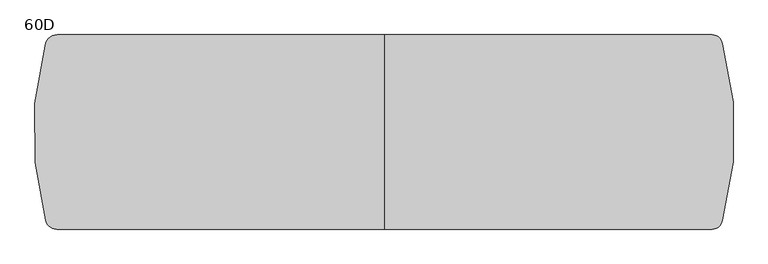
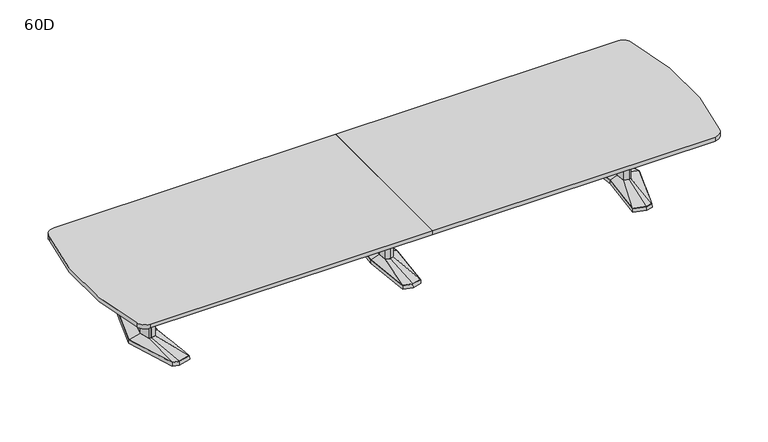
"""IFC4 building model written with IfcOpenShell, lengths in millimetres: furniture geometry, Coalesse_AM_Table_Conference_ETable2_SoftRadiused_18ft_AluminiumBase : 60D."""

from ifc_helpers import new_model, si_unit, point, frame, frame_2d, origin, place, context, project, spatial, polyline, circle_curve, trimmed, segment, composite_curve, outline, extrude, faceted_brep, source, transform, mapped, element, save
from ifc_brep_helpers import plane_surface, spline_surface, advanced_brep


def furniture_60d_67418c7f(model_context):
    return source(origin(), model_context, "Body", "SolidModel", [
        faceted_brep([(-81.2333791, -433.8053819, 38.1), (0.0, -455.556576, 38.1), (81.2333791, -433.8053819, 38.1), (119.0564774, 0.0, 38.1), (81.2333791, 433.8053819, 38.1), (0.0, 455.556576, 38.1), (-81.2333791, 433.8053819, 38.1), (-119.0564774, 0.0, 38.1), (-82.7182795, -435.0512063, 3.175), (-120.65, 0.0, 3.175), (-82.7182795, 435.0512063, 3.175), (0.0, 457.2, 3.175), (82.7182795, 435.0512063, 3.175), (120.65, 0.0, 3.175), (82.7182795, -435.0512063, 3.175), (0.0, -457.2, 3.175), (0.0, 429.2617927, 3.175), (-77.9676806, 408.3850278, 3.175), (-74.7019821, 382.9646737, 3.175), (0.0, 402.9670094, 3.175), (74.7019821, 382.9646737, 3.175), (77.9676806, 408.3850278, 3.175), (0.0, -429.2617927, 3.175), (77.9676806, -408.3850278, 3.175), (74.7019821, -382.9646737, 3.175), (0.0, -402.9670094, 3.175), (-74.7019821, -382.9646737, 3.175), (-77.9676806, -408.3850278, 3.175), (-71.8574262, 114.6326257, 3.175), (-82.5426076, 0.0, 3.175), (-71.8574262, -114.6326257, 3.175), (0.0, -133.8761372, 3.175), (71.8574262, -114.6326257, 3.175), (82.5426076, 0.0, 3.175), (71.8574262, 114.6326257, 3.175), (0.0, 133.8761372, 3.175), (0.0, 429.2617927, 0.0), (77.9676806, 408.3850278, 0.0), (74.7019821, 382.9646737, 0.0), (0.0, 402.9670094, 0.0), (-74.7019821, 382.9646737, 0.0), (-77.9676806, 408.3850278, 0.0), (0.0, -429.2617927, 0.0), (-77.9676806, -408.3850278, 0.0), (-74.7019821, -382.9646737, 0.0), (0.0, -402.9670094, 0.0), (74.7019821, -382.9646737, 0.0), (77.9676806, -408.3850278, 0.0), (-71.8574262, 114.6326257, 0.0), (0.0, 133.8761372, 0.0), (71.8574262, 114.6326257, 0.0), (82.5426076, 0.0, 0.0), (71.8574262, -114.6326257, 0.0), (0.0, -133.8761372, 0.0), (-71.8574262, -114.6326257, 0.0), (-82.5426076, 0.0, 0.0)], [[[0, 1, 2, 3, 4, 5, 6, 7]], [[8, 9, 10, 11, 12, 13, 14, 15], [16, 17, 18, 19, 20, 21], [22, 23, 24, 25, 26, 27], [28, 29, 30, 31, 32, 33, 34, 35]], [[1, 0, 8, 15]], [[2, 1, 15, 14]], [[3, 2, 14, 13]], [[4, 3, 13, 12]], [[5, 4, 12, 11]], [[6, 5, 11, 10]], [[7, 6, 10, 9]], [[0, 7, 9, 8]], [[36, 37, 38, 39, 40, 41]], [[42, 43, 44, 45, 46, 47]], [[48, 49, 50, 51, 52, 53, 54, 55]], [[36, 41, 17, 16]], [[41, 40, 18, 17]], [[40, 39, 19, 18]], [[39, 38, 20, 19]], [[38, 37, 21, 20]], [[37, 36, 16, 21]], [[42, 47, 23, 22]], [[47, 46, 24, 23]], [[46, 45, 25, 24]], [[45, 44, 26, 25]], [[44, 43, 27, 26]], [[43, 42, 22, 27]], [[48, 55, 29, 28]], [[55, 54, 30, 29]], [[54, 53, 31, 30]], [[53, 52, 32, 31]], [[52, 51, 33, 32]], [[51, 50, 34, 33]], [[50, 49, 35, 34]], [[49, 48, 28, 35]]]),
        faceted_brep([(-36.3832834, 84.6900825, 698.5), (-44.2774487, 0.0, 698.5), (-36.3832834, -84.6900825, 698.5), (0.0, -94.4335728, 698.5), (36.3832834, -84.6900825, 698.5), (44.2774487, 0.0, 698.5), (36.3832834, 84.6900825, 698.5), (0.0, 94.4335728, 698.5), (-36.3832834, 84.6900825, 63.5), (0.0, 94.4335728, 63.5), (36.3832834, 84.6900825, 63.5), (44.2774487, 0.0, 63.5), (36.3832834, -84.6900825, 63.5), (0.0, -94.4335728, 63.5), (-36.3832834, -84.6900825, 63.5), (-44.2774487, 0.0, 63.5)], [[[0, 1, 2, 3, 4, 5, 6, 7]], [[8, 9, 10, 11, 12, 13, 14, 15]], [[1, 0, 8, 15]], [[2, 1, 15, 14]], [[3, 2, 14, 13]], [[4, 3, 13, 12]], [[5, 4, 12, 11]], [[6, 5, 11, 10]], [[7, 6, 10, 9]], [[0, 7, 9, 8]]]),
        advanced_brep(
        [(-36.3832834, 84.6900825, 63.5), (-44.2774487, 0.0, 63.5), (-36.3832834, -84.6900825, 63.5), (0.0, -94.4335728, 63.5), (36.3832834, -84.6900825, 63.5), (44.2774487, 0.0, 63.5), (36.3832834, 84.6900825, 63.5), (0.0, 94.4335728, 63.5), (-81.2333791, 433.8053819, 38.1), (0.0, 455.556576, 38.1), (81.2333791, 433.8053819, 38.1), (119.0564774, 0.0, 38.1), (81.2333791, -433.8053819, 38.1), (0.0, -455.556576, 38.1), (-81.2333791, -433.8053819, 38.1), (-119.0564774, 0.0, 38.1)],
        [
            (0, 1),
            (1, 2),
            (2, 3),
            (3, 4),
            (4, 5),
            (5, 6),
            (6, 7),
            (7, 0),
            (8, 9),
            (9, 10),
            (10, 11),
            (11, 12),
            (12, 13),
            (13, 14),
            (14, 15),
            (15, 8),
            (15, 1),
            (0, 8),
            (14, 2),
            (13, 3),
            (12, 4),
            (11, 5),
            (10, 6),
            (9, 7),
        ],
        [
            plane_surface(frame((0.0, 0.0, 63.5), z_axis=(0.0, 0.0, 1.0000000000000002), x_axis=(-0.9659615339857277, -0.25868574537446, 0.0))),
            plane_surface(frame((0.0, 0.0, 38.1), z_axis=(0.0, 0.0, -1.0000000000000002), x_axis=(-0.9659615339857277, -0.25868574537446, 0.0))),
            spline_surface(1, 1, [[(-81.2333791, 433.8053819, 38.1), (-36.3832834, 84.6900825, 63.5)], [(-119.0564774, 0.0, 38.1), (-44.2774487, 0.0, 63.5)]], [2, 2], [2, 2], [0.0, 1.0], [0.0, 1.0]),
            spline_surface(1, 1, [[(-119.0564774, 0.0, 38.1), (-44.2774487, 0.0, 63.5)], [(-81.2333791, -433.8053819, 38.1), (-36.3832834, -84.6900825, 63.5)]], [2, 2], [2, 2], [0.0, 1.0], [0.0, 1.0]),
            spline_surface(1, 1, [[(-81.2333791, -433.8053819, 38.1), (-36.3832834, -84.6900825, 63.5)], [(0.0, -455.556576, 38.1), (0.0, -94.4335728, 63.5)]], [2, 2], [2, 2], [0.0, 1.0], [0.0, 1.0]),
            spline_surface(1, 1, [[(0.0, -455.556576, 38.1), (0.0, -94.4335728, 63.5)], [(81.2333791, -433.8053819, 38.1), (36.3832834, -84.6900825, 63.5)]], [2, 2], [2, 2], [0.0, 1.0], [0.0, 1.0]),
            spline_surface(1, 1, [[(81.2333791, -433.8053819, 38.1), (36.3832834, -84.6900825, 63.5)], [(119.0564774, 0.0, 38.1), (44.2774487, 0.0, 63.5)]], [2, 2], [2, 2], [0.0, 1.0], [0.0, 1.0]),
            spline_surface(1, 1, [[(119.0564774, 0.0, 38.1), (44.2774487, 0.0, 63.5)], [(81.2333791, 433.8053819, 38.1), (36.3832834, 84.6900825, 63.5)]], [2, 2], [2, 2], [0.0, 1.0], [0.0, 1.0]),
            spline_surface(1, 1, [[(81.2333791, 433.8053819, 38.1), (36.3832834, 84.6900825, 63.5)], [(0.0, 455.556576, 38.1), (0.0, 94.4335728, 63.5)]], [2, 2], [2, 2], [0.0, 1.0], [0.0, 1.0]),
            spline_surface(1, 1, [[(0.0, 455.556576, 38.1), (0.0, 94.4335728, 63.5)], [(-81.2333791, 433.8053819, 38.1), (-36.3832834, 84.6900825, 63.5)]], [2, 2], [2, 2], [0.0, 1.0], [0.0, 1.0]),
        ],
        [
            (0, [[1, 2, 3, 4, 5, 6, 7, 8]]),
            (1, [[9, 10, 11, 12, 13, 14, 15, 16]]),
            (2, [[-16, 17, -1, 18]]),
            (3, [[-15, 19, -2, -17]]),
            (4, [[-14, 20, -3, -19]]),
            (5, [[-13, 21, -4, -20]]),
            (6, [[-12, 22, -5, -21]]),
            (7, [[-11, 23, -6, -22]]),
            (8, [[-10, 24, -7, -23]]),
            (9, [[-9, -18, -8, -24]]),
        ],
    ),
        faceted_brep([(2125.0306835, 455.5848221, 38.1), (2015.4531277, 426.2263816, 38.1), (2056.6163717, 0.0, 38.1), (2015.4531277, -426.2263816, 38.1), (2125.0306835, -455.5848221, 38.1), (2181.1570396, -440.5478297, 38.1), (2318.4684269, 0.0, 38.1), (2181.1570396, 440.5478297, 38.1), (2125.0306754, 457.2283104, 3.175), (2182.4124472, 441.8549756, 3.175), (2320.13125, 0.0, 3.175), (2182.4124472, -441.8549756, 3.175), (2125.0306754, -457.2283104, 3.175), (2013.74375, -427.4118891, 3.175), (2055.0214856, 0.0, 3.175), (2013.74375, 427.4118891, 3.175), (2128.620115, 428.3273875, 3.175), (2023.5718228, 402.1057253, 3.175), (2031.690518, 377.985069, 3.175), (2132.2095466, 401.0699529, 3.175), (2182.7691725, 387.524361, 3.175), (2181.9631061, 414.0360954, 3.175), (2128.620115, -428.3273875, 3.175), (2181.9631061, -414.0360954, 3.175), (2182.7691725, -387.524361, 3.175), (2132.2095466, -401.0699529, 3.175), (2031.690518, -377.985069, 3.175), (2023.5718228, -402.1057253, 3.175), (2255.2153621, 0.0, 3.175), (2222.9459611, 120.4193755, 3.175), (2174.2987222, 133.471665, 3.175), (2094.4180526, 119.4176561, 3.175), (2083.2868466, 0.0, 3.175), (2094.4180526, -119.4176561, 3.175), (2174.2987222, -133.471665, 3.175), (2222.9459611, -120.4193755, 3.175), (2128.620115, 428.3273875, 0.0), (2181.9631061, 414.0360954, 0.0), (2182.7691725, 387.524361, 0.0), (2132.2095466, 401.0699529, 0.0), (2031.690518, 377.985069, 0.0), (2023.5718228, 402.1057253, 0.0), (2128.620115, -428.3273875, 0.0), (2023.5718228, -402.1057253, 0.0), (2031.690518, -377.985069, 0.0), (2132.2095466, -401.0699529, 0.0), (2182.7691725, -387.524361, 0.0), (2181.9631061, -414.0360954, 0.0), (2255.2153621, 0.0, 0.0), (2222.9459611, -120.4193755, 0.0), (2174.2987222, -133.471665, 0.0), (2094.4180526, -119.4176561, 0.0), (2083.2868466, 0.0, 0.0), (2094.4180526, 119.4176561, 0.0), (2174.2987222, 133.471665, 0.0), (2222.9459611, 120.4193755, 0.0)], [[[0, 1, 2, 3, 4, 5, 6, 7]], [[8, 9, 10, 11, 12, 13, 14, 15], [16, 17, 18, 19, 20, 21], [22, 23, 24, 25, 26, 27], [28, 29, 30, 31, 32, 33, 34, 35]], [[7, 9, 8, 0]], [[6, 10, 9, 7]], [[5, 11, 10, 6]], [[4, 12, 11, 5]], [[3, 13, 12, 4]], [[2, 14, 13, 3]], [[1, 15, 14, 2]], [[0, 8, 15, 1]], [[36, 37, 38, 39, 40, 41]], [[42, 43, 44, 45, 46, 47]], [[48, 49, 50, 51, 52, 53, 54, 55]], [[36, 16, 21, 37]], [[37, 21, 20, 38]], [[38, 20, 19, 39]], [[39, 19, 18, 40]], [[40, 18, 17, 41]], [[41, 17, 16, 36]], [[42, 22, 27, 43]], [[43, 27, 26, 44]], [[44, 26, 25, 45]], [[45, 25, 24, 46]], [[46, 24, 23, 47]], [[47, 23, 22, 42]], [[48, 28, 35, 49]], [[49, 35, 34, 50]], [[50, 34, 33, 51]], [[51, 33, 32, 52]], [[52, 32, 31, 53]], [[53, 31, 30, 54]], [[54, 30, 29, 55]], [[55, 29, 28, 48]]]),
        faceted_brep([(2215.7710836, 0.0, 698.5), (2191.8358546, 89.3188359, 698.5), (2174.9824984, 93.8406728, 698.5), (2172.5826511, 94.4845635, 698.5), (2129.655146, 86.9320037, 698.5), (2121.5520056, 0.0, 698.5), (2129.655146, -86.9320037, 698.5), (2172.5826511, -94.4845635, 698.5), (2174.9824984, -93.8406728, 698.5), (2191.8358546, -89.3188359, 698.5), (2215.7710836, 0.0, 63.5), (2191.8358546, -89.3188359, 63.5), (2174.9824984, -93.8406728, 63.5), (2172.5826511, -94.4845635, 63.5), (2129.655146, -86.9320037, 63.5), (2121.5520056, 0.0, 63.5), (2129.655146, 86.9320037, 63.5), (2172.5826511, 94.4845635, 63.5), (2174.9824984, 93.8406728, 63.5), (2191.8358546, 89.3188359, 63.5)], [[[0, 1, 2, 3, 4, 5, 6, 7, 8, 9]], [[10, 11, 12, 13, 14, 15, 16, 17, 18, 19]], [[9, 11, 10, 0]], [[8, 12, 11, 9]], [[7, 13, 12, 8]], [[6, 14, 13, 7]], [[5, 15, 14, 6]], [[4, 16, 15, 5]], [[3, 17, 16, 4]], [[2, 18, 17, 3]], [[1, 19, 18, 2]], [[0, 10, 19, 1]]]),
        advanced_brep(
        [(2172.5826511, 94.4845635, 63.5), (2129.655146, 86.9320037, 63.5), (2121.5520056, 0.0, 63.5), (2129.655146, -86.9320037, 63.5), (2172.5826511, -94.4845635, 63.5), (2191.8358546, -89.3188359, 63.5), (2215.7710836, 0.0, 63.5), (2191.8358546, 89.3188359, 63.5), (2125.0306835, 455.5848221, 38.1), (2181.1570396, 440.5478297, 38.1), (2318.4684269, 0.0, 38.1), (2181.1570396, -440.5478297, 38.1), (2125.0306835, -455.5848221, 38.1), (2015.4531277, -426.2263816, 38.1), (2056.6163717, 0.0, 38.1), (2015.4531277, 426.2263816, 38.1)],
        [
            (0, 1),
            (1, 2),
            (2, 3),
            (3, 4),
            (4, 5),
            (5, 6),
            (6, 7),
            (7, 0),
            (8, 9),
            (9, 10),
            (10, 11),
            (11, 12),
            (12, 13),
            (13, 14),
            (14, 15),
            (15, 8),
            (8, 0),
            (7, 9),
            (6, 10),
            (5, 11),
            (4, 12),
            (3, 13),
            (2, 14),
            (1, 15),
        ],
        [
            plane_surface(frame((2165.6837991, 0.0, 63.5), z_axis=(0.0, 0.0, 1.0), x_axis=(-0.25884244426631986, -0.9659195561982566, 0.0))),
            plane_surface(frame((2127.2958125, 0.0, 38.1), z_axis=(0.0, 0.0, -1.0), x_axis=(-0.25884244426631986, -0.9659195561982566, 0.0))),
            spline_surface(1, 1, [[(2125.0306835, 455.5848221, 38.1), (2181.1570396, 440.5478297, 38.1)], [(2172.5826511, 94.4845635, 63.5), (2191.8358546, 89.3188359, 63.5)]], [2, 2], [2, 2], [0.0, 1.0], [0.0, 1.0]),
            spline_surface(1, 1, [[(2181.1570396, 440.5478297, 38.1), (2318.4684269, 0.0, 38.1)], [(2191.8358546, 89.3188359, 63.5), (2215.7710836, 0.0, 63.5)]], [2, 2], [2, 2], [0.0, 1.0], [0.0, 1.0]),
            spline_surface(1, 1, [[(2318.4684269, 0.0, 38.1), (2181.1570396, -440.5478297, 38.1)], [(2215.7710836, 0.0, 63.5), (2191.8358546, -89.3188359, 63.5)]], [2, 2], [2, 2], [0.0, 1.0], [0.0, 1.0]),
            spline_surface(1, 1, [[(2181.1570396, -440.5478297, 38.1), (2125.0306835, -455.5848221, 38.1)], [(2191.8358546, -89.3188359, 63.5), (2172.5826511, -94.4845635, 63.5)]], [2, 2], [2, 2], [0.0, 1.0], [0.0, 1.0]),
            spline_surface(1, 1, [[(2125.0306835, -455.5848221, 38.1), (2015.4531277, -426.2263816, 38.1)], [(2172.5826511, -94.4845635, 63.5), (2129.655146, -86.9320037, 63.5)]], [2, 2], [2, 2], [0.0, 1.0], [0.0, 1.0]),
            spline_surface(1, 1, [[(2015.4531277, -426.2263816, 38.1), (2056.6163717, 0.0, 38.1)], [(2129.655146, -86.9320037, 63.5), (2121.5520056, 0.0, 63.5)]], [2, 2], [2, 2], [0.0, 1.0], [0.0, 1.0]),
            spline_surface(1, 1, [[(2056.6163717, 0.0, 38.1), (2015.4531277, 426.2263816, 38.1)], [(2121.5520056, 0.0, 63.5), (2129.655146, 86.9320037, 63.5)]], [2, 2], [2, 2], [0.0, 1.0], [0.0, 1.0]),
            spline_surface(1, 1, [[(2015.4531277, 426.2263816, 38.1), (2125.0306835, 455.5848221, 38.1)], [(2129.655146, 86.9320037, 63.5), (2172.5826511, 94.4845635, 63.5)]], [2, 2], [2, 2], [0.0, 1.0], [0.0, 1.0]),
        ],
        [
            (0, [[1, 2, 3, 4, 5, 6, 7, 8]]),
            (1, [[9, 10, 11, 12, 13, 14, 15, 16]]),
            (2, [[17, -8, 18, -9]]),
            (3, [[-18, -7, 19, -10]]),
            (4, [[-19, -6, 20, -11]]),
            (5, [[-20, -5, 21, -12]]),
            (6, [[-21, -4, 22, -13]]),
            (7, [[-22, -3, 23, -14]]),
            (8, [[-23, -2, 24, -15]]),
            (9, [[-24, -1, -17, -16]]),
        ],
    ),
        faceted_brep([(-2125.0306835, 455.5848221, 38.1), (-2181.1570396, 440.5478297, 38.1), (-2318.4684269, 0.0, 38.1), (-2181.1570396, -440.5478297, 38.1), (-2125.0306835, -455.5848221, 38.1), (-2015.4531277, -426.2263816, 38.1), (-2056.6163717, 0.0, 38.1), (-2015.4531277, 426.2263816, 38.1), (-2125.0306754, 457.2283104, 3.175), (-2013.74375, 427.4118891, 3.175), (-2055.0214856, 0.0, 3.175), (-2013.74375, -427.4118891, 3.175), (-2125.0306754, -457.2283104, 3.175), (-2182.4124472, -441.8549756, 3.175), (-2320.13125, 0.0, 3.175), (-2182.4124472, 441.8549756, 3.175), (-2128.620115, 428.3273875, 3.175), (-2181.9631061, 414.0360954, 3.175), (-2182.7691725, 387.524361, 3.175), (-2132.2095466, 401.0699529, 3.175), (-2031.690518, 377.985069, 3.175), (-2023.5718228, 402.1057253, 3.175), (-2128.620115, -428.3273875, 3.175), (-2023.5718228, -402.1057253, 3.175), (-2031.690518, -377.985069, 3.175), (-2132.2095466, -401.0699529, 3.175), (-2182.7691725, -387.524361, 3.175), (-2181.9631061, -414.0360954, 3.175), (-2255.2153621, 0.0, 3.175), (-2222.9459611, -120.4193755, 3.175), (-2174.2987222, -133.471665, 3.175), (-2094.4180526, -119.4176561, 3.175), (-2083.2868466, 0.0, 3.175), (-2094.4180526, 119.4176561, 3.175), (-2174.2987222, 133.471665, 3.175), (-2222.9459611, 120.4193755, 3.175), (-2128.620115, 428.3273875, 0.0), (-2023.5718228, 402.1057253, 0.0), (-2031.690518, 377.985069, 0.0), (-2132.2095466, 401.0699529, 0.0), (-2182.7691725, 387.524361, 0.0), (-2181.9631061, 414.0360954, 0.0), (-2128.620115, -428.3273875, 0.0), (-2181.9631061, -414.0360954, 0.0), (-2182.7691725, -387.524361, 0.0), (-2132.2095466, -401.0699529, 0.0), (-2031.690518, -377.985069, 0.0), (-2023.5718228, -402.1057253, 0.0), (-2255.2153621, 0.0, 0.0), (-2222.9459611, 120.4193755, 0.0), (-2174.2987222, 133.471665, 0.0), (-2094.4180526, 119.4176561, 0.0), (-2083.2868466, 0.0, 0.0), (-2094.4180526, -119.4176561, 0.0), (-2174.2987222, -133.471665, 0.0), (-2222.9459611, -120.4193755, 0.0)], [[[0, 1, 2, 3, 4, 5, 6, 7]], [[8, 9, 10, 11, 12, 13, 14, 15], [16, 17, 18, 19, 20, 21], [22, 23, 24, 25, 26, 27], [28, 29, 30, 31, 32, 33, 34, 35]], [[1, 0, 8, 15]], [[2, 1, 15, 14]], [[3, 2, 14, 13]], [[4, 3, 13, 12]], [[5, 4, 12, 11]], [[6, 5, 11, 10]], [[7, 6, 10, 9]], [[0, 7, 9, 8]], [[36, 37, 38, 39, 40, 41]], [[42, 43, 44, 45, 46, 47]], [[48, 49, 50, 51, 52, 53, 54, 55]], [[36, 41, 17, 16]], [[41, 40, 18, 17]], [[40, 39, 19, 18]], [[39, 38, 20, 19]], [[38, 37, 21, 20]], [[37, 36, 16, 21]], [[42, 47, 23, 22]], [[47, 46, 24, 23]], [[46, 45, 25, 24]], [[45, 44, 26, 25]], [[44, 43, 27, 26]], [[43, 42, 22, 27]], [[48, 55, 29, 28]], [[55, 54, 30, 29]], [[54, 53, 31, 30]], [[53, 52, 32, 31]], [[52, 51, 33, 32]], [[51, 50, 34, 33]], [[50, 49, 35, 34]], [[49, 48, 28, 35]]]),
        faceted_brep([(-2215.7710836, 0.0, 698.5), (-2191.8358546, -89.3188359, 698.5), (-2174.9824984, -93.8406728, 698.5), (-2172.5826511, -94.4845635, 698.5), (-2129.655146, -86.9320037, 698.5), (-2121.5520056, 0.0, 698.5), (-2129.655146, 86.9320037, 698.5), (-2172.5826511, 94.4845635, 698.5), (-2174.9824984, 93.8406728, 698.5), (-2191.8358546, 89.3188359, 698.5), (-2215.7710836, 0.0, 63.5), (-2191.8358546, 89.3188359, 63.5), (-2174.9824984, 93.8406728, 63.5), (-2172.5826511, 94.4845635, 63.5), (-2129.655146, 86.9320037, 63.5), (-2121.5520056, 0.0, 63.5), (-2129.655146, -86.9320037, 63.5), (-2172.5826511, -94.4845635, 63.5), (-2174.9824984, -93.8406728, 63.5), (-2191.8358546, -89.3188359, 63.5)], [[[0, 1, 2, 3, 4, 5, 6, 7, 8, 9]], [[10, 11, 12, 13, 14, 15, 16, 17, 18, 19]], [[1, 0, 10, 19]], [[2, 1, 19, 18]], [[3, 2, 18, 17]], [[4, 3, 17, 16]], [[5, 4, 16, 15]], [[6, 5, 15, 14]], [[7, 6, 14, 13]], [[8, 7, 13, 12]], [[9, 8, 12, 11]], [[0, 9, 11, 10]]]),
        advanced_brep(
        [(-2172.5826511, 94.4845635, 63.5), (-2191.8358546, 89.3188359, 63.5), (-2215.7710836, 0.0, 63.5), (-2191.8358546, -89.3188359, 63.5), (-2172.5826511, -94.4845635, 63.5), (-2129.655146, -86.9320037, 63.5), (-2121.5520056, 0.0, 63.5), (-2129.655146, 86.9320037, 63.5), (-2125.0306835, 455.5848221, 38.1), (-2015.4531277, 426.2263816, 38.1), (-2056.6163717, 0.0, 38.1), (-2015.4531277, -426.2263816, 38.1), (-2125.0306835, -455.5848221, 38.1), (-2181.1570396, -440.5478297, 38.1), (-2318.4684269, 0.0, 38.1), (-2181.1570396, 440.5478297, 38.1)],
        [
            (0, 1),
            (1, 2),
            (2, 3),
            (3, 4),
            (4, 5),
            (5, 6),
            (6, 7),
            (7, 0),
            (8, 9),
            (9, 10),
            (10, 11),
            (11, 12),
            (12, 13),
            (13, 14),
            (14, 15),
            (15, 8),
            (15, 1),
            (0, 8),
            (14, 2),
            (13, 3),
            (12, 4),
            (11, 5),
            (10, 6),
            (9, 7),
        ],
        [
            plane_surface(frame((-2165.6837991, 0.0, 63.5), z_axis=(0.0, 0.0, 1.0), x_axis=(0.25884244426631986, -0.9659195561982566, 0.0))),
            plane_surface(frame((-2127.2958125, 0.0, 38.1), z_axis=(0.0, 0.0, -1.0), x_axis=(0.25884244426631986, -0.9659195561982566, 0.0))),
            spline_surface(1, 1, [[(-2125.0306835, 455.5848221, 38.1), (-2172.5826511, 94.4845635, 63.5)], [(-2181.1570396, 440.5478297, 38.1), (-2191.8358546, 89.3188359, 63.5)]], [2, 2], [2, 2], [0.0, 1.0], [0.0, 1.0]),
            spline_surface(1, 1, [[(-2181.1570396, 440.5478297, 38.1), (-2191.8358546, 89.3188359, 63.5)], [(-2318.4684269, 0.0, 38.1), (-2215.7710836, 0.0, 63.5)]], [2, 2], [2, 2], [0.0, 1.0], [0.0, 1.0]),
            spline_surface(1, 1, [[(-2318.4684269, 0.0, 38.1), (-2215.7710836, 0.0, 63.5)], [(-2181.1570396, -440.5478297, 38.1), (-2191.8358546, -89.3188359, 63.5)]], [2, 2], [2, 2], [0.0, 1.0], [0.0, 1.0]),
            spline_surface(1, 1, [[(-2181.1570396, -440.5478297, 38.1), (-2191.8358546, -89.3188359, 63.5)], [(-2125.0306835, -455.5848221, 38.1), (-2172.5826511, -94.4845635, 63.5)]], [2, 2], [2, 2], [0.0, 1.0], [0.0, 1.0]),
            spline_surface(1, 1, [[(-2125.0306835, -455.5848221, 38.1), (-2172.5826511, -94.4845635, 63.5)], [(-2015.4531277, -426.2263816, 38.1), (-2129.655146, -86.9320037, 63.5)]], [2, 2], [2, 2], [0.0, 1.0], [0.0, 1.0]),
            spline_surface(1, 1, [[(-2015.4531277, -426.2263816, 38.1), (-2129.655146, -86.9320037, 63.5)], [(-2056.6163717, 0.0, 38.1), (-2121.5520056, 0.0, 63.5)]], [2, 2], [2, 2], [0.0, 1.0], [0.0, 1.0]),
            spline_surface(1, 1, [[(-2056.6163717, 0.0, 38.1), (-2121.5520056, 0.0, 63.5)], [(-2015.4531277, 426.2263816, 38.1), (-2129.655146, 86.9320037, 63.5)]], [2, 2], [2, 2], [0.0, 1.0], [0.0, 1.0]),
            spline_surface(1, 1, [[(-2015.4531277, 426.2263816, 38.1), (-2129.655146, 86.9320037, 63.5)], [(-2125.0306835, 455.5848221, 38.1), (-2172.5826511, 94.4845635, 63.5)]], [2, 2], [2, 2], [0.0, 1.0], [0.0, 1.0]),
        ],
        [
            (0, [[1, 2, 3, 4, 5, 6, 7, 8]]),
            (1, [[9, 10, 11, 12, 13, 14, 15, 16]]),
            (2, [[-16, 17, -1, 18]]),
            (3, [[-15, 19, -2, -17]]),
            (4, [[-14, 20, -3, -19]]),
            (5, [[-13, 21, -4, -20]]),
            (6, [[-12, 22, -5, -21]]),
            (7, [[-11, 23, -6, -22]]),
            (8, [[-10, 24, -7, -23]]),
            (9, [[-9, -18, -8, -24]]),
        ],
    ),
        extrude(outline(polyline([(96.8375, 698.5), (103.1875, 698.5), (103.1875, 476.25), (-103.1875, 476.25), (-103.1875, 698.5), (-96.8375, 698.5), (-96.8375, 482.6), (96.8375, 482.6), (96.8375, 698.5)])), frame((44.2774487, 0.0, 0.0), z_axis=(1.0, 0.0, 0.0), x_axis=(0.0, 1.0, 0.0)), (0.0, 0.0, 1.0), 2077.4163013),
        extrude(outline(composite_curve([segment(polyline([(0.0, 762.0), (0.0, -762.0), (-2563.7617771, -762.0)]), True, "CONTINUOUS"), segment(trimmed(circle_curve(frame_2d((-2563.7617771, -673.4532728)), 88.5467272), [point((-2563.7617771, -762.0))], [point((-2649.7932067, -694.4083682))], False, "CARTESIAN"), True, "CONTINUOUS"), segment(trimmed(circle_curve(frame_2d((-115.2979315, 0.0)), 2627.9020685), [point((-2649.7932067, -694.4083682))], [point((-2654.4994042, 676.9971661))], False, "CARTESIAN"), True, "CONTINUOUS"), segment(trimmed(circle_curve(frame_2d((-2558.7602226, 665.5827871)), 96.4172129), [point((-2654.4994042, 676.9971661))], [point((-2558.7602226, 762.0))], False, "CARTESIAN"), True, "CONTINUOUS"), segment(polyline([(-2558.7602226, 762.0), (0.0, 762.0)]), True, "CONTINUOUS")], self_intersect=False)), frame((0.0, 0.0, 698.5), z_axis=(0.0, 0.0, 1.0), x_axis=(1.0, 0.0, 0.0)), (0.0, 0.0, 1.0), 38.1),
        extrude(outline(composite_curve([segment(trimmed(circle_curve(frame_2d((115.2979315, 0.0)), 2627.9020685), [point((2649.7932067, 694.4083682))], [point((2649.7932067, -694.4083682))], False, "CARTESIAN"), True, "CONTINUOUS"), segment(trimmed(circle_curve(frame_2d((2568.9605731, -679.8704298)), 82.1295702), [point((2649.7932067, -694.4083682))], [point((2568.9605731, -762.0))], False, "CARTESIAN"), True, "CONTINUOUS"), segment(polyline([(2568.9605731, -762.0), (0.0, -762.0), (0.0, 762.0), (2568.9605731, 762.0)]), True, "CONTINUOUS"), segment(trimmed(circle_curve(frame_2d((2568.9605731, 679.8704298)), 82.1295702), [point((2568.9605731, 762.0))], [point((2649.7932067, 694.4083682))], False, "CARTESIAN"), True, "CONTINUOUS")], self_intersect=False)), frame((0.0, 0.0, 698.5), z_axis=(0.0, 0.0, 1.0), x_axis=(1.0, 0.0, 0.0)), (0.0, 0.0, 1.0), 38.1),
        extrude(outline(polyline([(96.8375, 698.5), (103.1875, 698.5), (103.1875, 476.25), (-103.1875, 476.25), (-103.1875, 698.5), (-96.8375, 698.5), (-96.8375, 482.6), (96.8375, 482.6), (96.8375, 698.5)])), frame((-2121.69375, 0.0, 0.0), z_axis=(1.0, 0.0, 0.0), x_axis=(0.0, 1.0, 0.0)), (0.0, 0.0, 1.0), 2077.4163013),
    ])


if __name__ == "__main__":
    model = new_model("IFC4")
    model_context = context("Model", 3, world=origin())
    ifc_project = project(units=[si_unit("LENGTHUNIT", "METRE", prefix="MILLI")], contexts=[model_context])
    site = spatial("IfcSite", under=ifc_project)
    building = spatial("IfcBuilding", under=site)
    placement = place(None, origin())
    furniture_60d_shape = furniture_60d_67418c7f(model_context)
    element("IfcFurniture", 1, ObjectType="Coalesse_AM_Table_Conference_ETable2_SoftRadiused_18ft_AluminiumBase : 60D", at=placement, inside=building, context=model_context, shape_type="MappedRepresentation", body=[
        mapped(furniture_60d_shape, transform((0.0, 0.0, 0.0), x_axis=(1.0, 0.0, 0.0), y_axis=(0.0, 1.0, 0.0), z_axis=(0.0, 0.0, 1.0))),
    ])
    save(model, "model.ifc")
